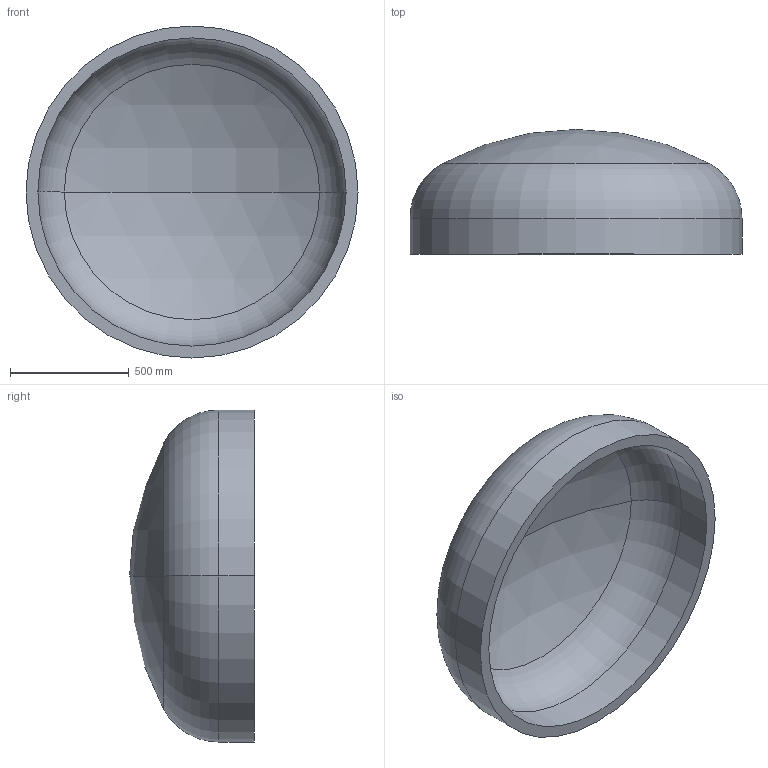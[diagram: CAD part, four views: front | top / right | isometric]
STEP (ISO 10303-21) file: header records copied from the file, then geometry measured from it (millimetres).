
FILE_DESCRIPTION (( 'STEP AP203' ), '1' );
FILE_NAME ('DIN 28013 Korbbogenform_-_Boden DIN 28013 - 1400 x 150 - I - s=50.step', '2016-07-01T10:20:43', ( '' ), ( '' ), 'SwSTEP 2.0', 'SolidWorks 2013', '' );
FILE_SCHEMA (( 'CONFIG_CONTROL_DESIGN' ));
Length unit declared in the file: millimetre
Products named in the file (1): DIN 28013 Korbbogenform_-_Boden DIN 28013 - 1400 x 150 - I - s=50
Bounding box: 1400 x 526.4 x 1400 mm (x, y, z)
Volume: 133515143.6 mm3; surface area: 5557897.9 mm2
Topology: 1 solids, 1 shells, 13 faces, 24 edges, 14 vertices
Faces by surface type: torus 4, cylinder 4, sphere 4, plane 1
Entity records: 407 total; most frequent: DIRECTION 72, CARTESIAN_POINT 52, ORIENTED_EDGE 48, AXIS2_PLACEMENT_3D 34, EDGE_CURVE 24, CIRCLE 20, EDGE_LOOP 14, VERTEX_POINT 14
